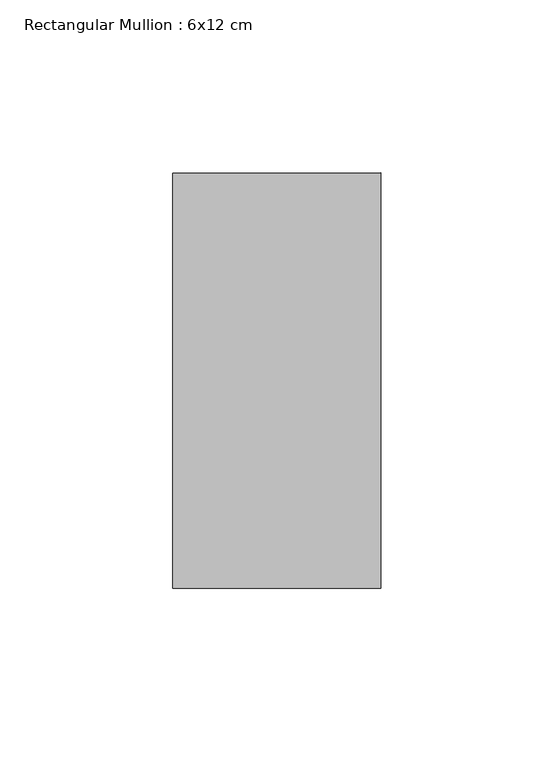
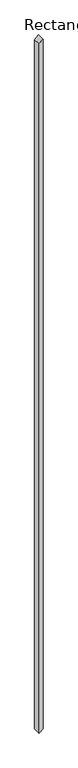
"""IFC4 building model written with IfcOpenShell, lengths in millimetres: member geometry, Rectangular Mullion : 6x12 cm."""

from ifc_helpers import new_model, si_unit, frame, origin, place, context, project, spatial, polyline, outline, extrude, source, transform, mapped, element, save


def rectangular_mullion_6x12_cm_4b0b2308(model_context):
    return source(origin(), model_context, "Body", "SweptSolid", [
        extrude(outline(polyline([(-53.9488065, 30.0), (-109.2582939, -30.0), (-11464.3714624, -30.0), (-11413.4867339, 30.0), (-53.9488065, 30.0)])), frame((0.0, 85.0, 0.0), z_axis=(0.0, 1.0, 0.0), x_axis=(0.0, 0.0, 1.0)), (0.0, 0.0, 1.0), 120.0),
    ])


if __name__ == "__main__":
    model = new_model("IFC4")
    model_context = context("Model", 3, world=origin())
    ifc_project = project(units=[si_unit("LENGTHUNIT", "METRE", prefix="MILLI")], contexts=[model_context])
    site = spatial("IfcSite", under=ifc_project)
    building = spatial("IfcBuilding", under=site)
    placement = place(None, origin())
    rectangular_mullion_6x12_cm_shape = rectangular_mullion_6x12_cm_4b0b2308(model_context)
    element("IfcMember", 1, ObjectType="Rectangular Mullion : 6x12 cm", at=placement, inside=building, context=model_context, shape_type="MappedRepresentation", body=[
        mapped(rectangular_mullion_6x12_cm_shape, transform((0.0, 0.0, 0.0), x_axis=(1.0, 0.0, 0.0), y_axis=(0.0, 1.0, 0.0), z_axis=(0.0, 0.0, 1.0))),
    ])
    save(model, "model.ifc")
